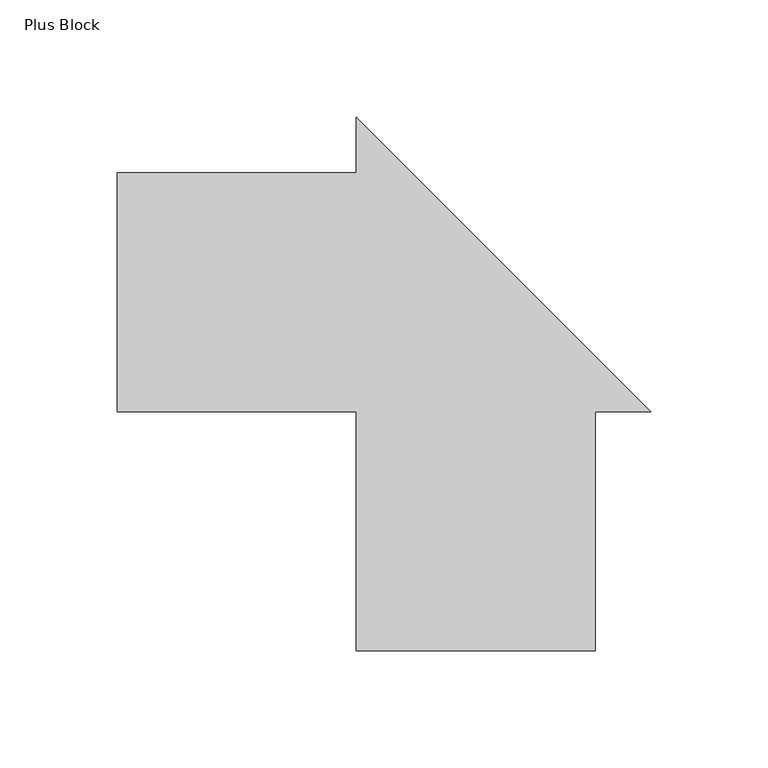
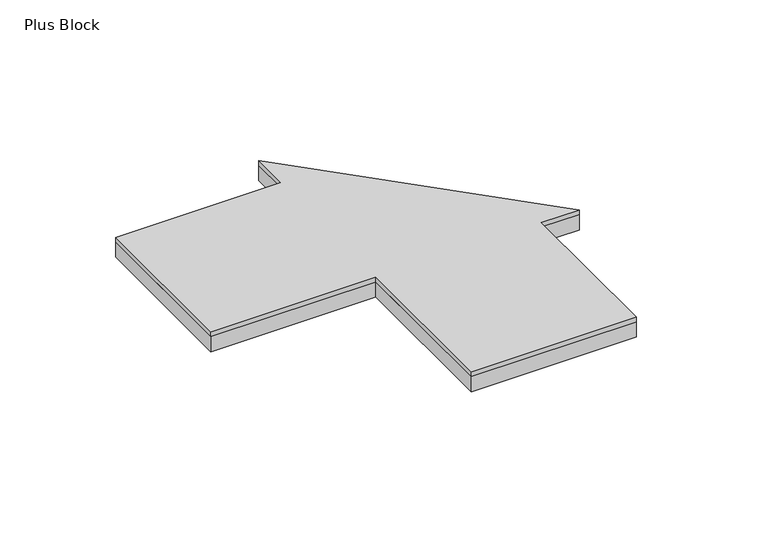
"""IFC4 building model written with IfcOpenShell, lengths in millimetres: proxy geometry, FilzFelt_Plus_Block : Plus Block."""

from ifc_helpers import new_model, si_unit, frame, origin, origin_with_axes, place, context, project, spatial, polyline, outline, extrude, source, transform, mapped, element, save


def plus_block_2f8b0b56(model_context):
    return source(origin(), model_context, "Body", "SweptSolid", [
        extrude(outline(polyline([(50.8333333, -50.8333333), (50.8333333, -152.5), (-50.8333333, -152.5), (-50.8333333, -50.8333333), (-152.5, -50.8333333), (-152.5, 50.8333333), (-50.8333333, 50.8333333), (-50.8333333, 74.4125539), (74.4125539, -50.8333333), (50.8333333, -50.8333333)])), frame((0.0, 0.0, 10.0210937), z_axis=(0.0, 0.0, 1.0), x_axis=(1.0, 0.0, 0.0)), (0.0, 0.0, 1.0), 2.9765625),
        extrude(outline(polyline([(-152.5, -50.8333333), (-152.5, 50.8333333), (-50.8333333, 50.8333333), (-50.8333333, 74.4125539), (74.4125539, -50.8333333), (50.8333333, -50.8333333), (50.8333333, -152.5), (-50.8333333, -152.5), (-50.8333333, -50.8333333), (-152.5, -50.8333333)])), origin_with_axes(), (0.0, 0.0, 1.0), 10.0210938),
    ])


if __name__ == "__main__":
    model = new_model("IFC4")
    model_context = context("Model", 3, world=origin())
    ifc_project = project(units=[si_unit("LENGTHUNIT", "METRE", prefix="MILLI")], contexts=[model_context])
    site = spatial("IfcSite", under=ifc_project)
    building = spatial("IfcBuilding", under=site)
    placement = place(None, origin())
    plus_block_shape = plus_block_2f8b0b56(model_context)
    element("IfcBuildingElementProxy", 1, Name="FilzFelt_Plus_Block : Plus Block", ObjectType="FilzFelt_Plus_Block : Plus Block", at=placement, inside=building, context=model_context, shape_type="MappedRepresentation", body=[
        mapped(plus_block_shape, transform((0.0, 0.0, 0.0), x_axis=(1.0, 0.0, 0.0), y_axis=(0.0, 1.0, 0.0), z_axis=(0.0, 0.0, 1.0))),
    ])
    save(model, "model.ifc")
